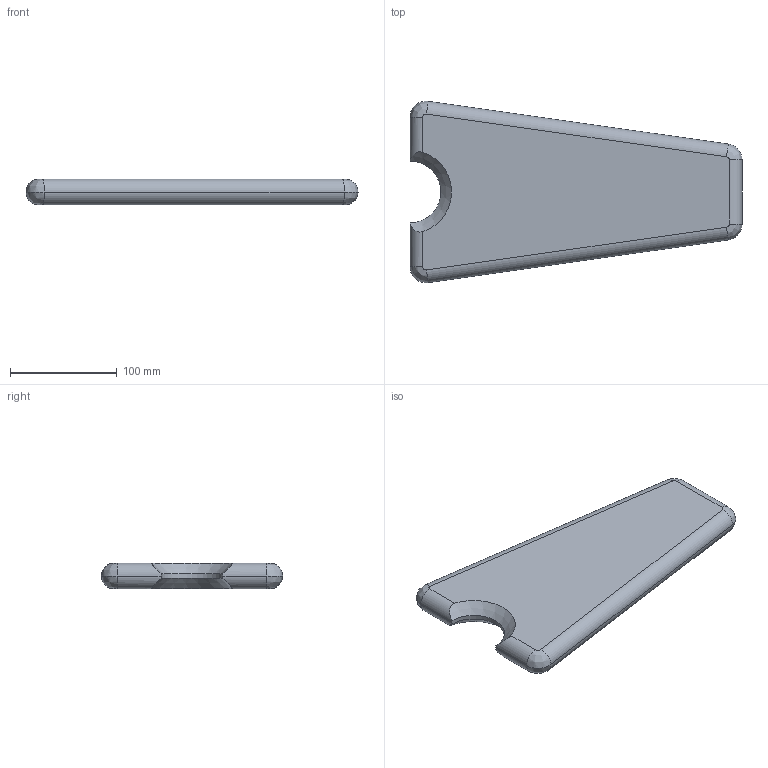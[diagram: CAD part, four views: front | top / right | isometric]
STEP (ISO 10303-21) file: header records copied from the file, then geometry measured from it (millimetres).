
FILE_DESCRIPTION(('STEP AP214'),'1');
FILE_NAME('7617172_AGDE-99-142_ESFA-250.stp','2019-02-04T12:39:09',(' '),(' '),'Spatial InterOp 3D',' ',' ');
FILE_SCHEMA(('AUTOMOTIVE_DESIGN { 1 0 10303 214 1 1 1 1 }'));
Length unit declared in the file: millimetre
Products named in the file (1): 7617172_AGDE-99-142_ESFA-250
Bounding box: 311 x 169.99 x 24 mm (x, y, z)
Volume: 878101 mm3; surface area: 90009.8 mm2
Topology: 1 solids, 1 shells, 23 faces, 55 edges, 34 vertices
Faces by surface type: cylinder 11, bspline 8, cone 2, plane 2
Entity records: 1065 total; most frequent: CARTESIAN_POINT 349, DIRECTION 111, ORIENTED_EDGE 110, EDGE_CURVE 55, AXIS2_PLACEMENT_3D 48, VERTEX_POINT 34, CIRCLE 32, STYLED_ITEM 23
